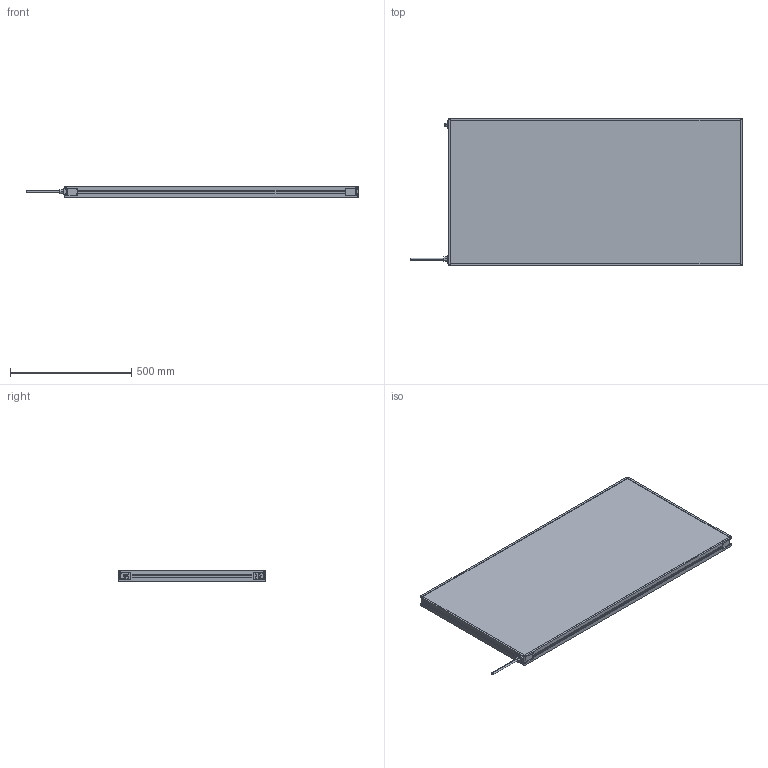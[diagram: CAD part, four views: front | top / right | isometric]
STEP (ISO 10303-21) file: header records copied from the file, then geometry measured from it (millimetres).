
FILE_DESCRIPTION (( 'STEP AP214' ), '1' );
FILE_NAME ('MBACK-xxxx-xxx-M1A2_CLIENT600x1200.STEP', '2022-04-01T11:45:36', ( '' ), ( '' ), 'SwSTEP 2.0', 'SolidWorks 2020', '' );
FILE_SCHEMA (( 'AUTOMOTIVE_DESIGN' ));
Length unit declared in the file: millimetre
Products named in the file (1): MBACK-xxxx-xxx-M1A2_CLIENT600x1200
Bounding box: 1367.4 x 608 x 45.5 mm (x, y, z)
Volume: 30605921.1 mm3; surface area: 1716125.4 mm2
Topology: 1 solids, 1 shells, 470 faces, 1210 edges, 804 vertices
Faces by surface type: plane 265, cylinder 117, bspline 80, cone 8
Entity records: 18046 total; most frequent: CARTESIAN_POINT 6837, ORIENTED_EDGE 2420, DIRECTION 2082, EDGE_CURVE 1210, VERTEX_POINT 804, VECTOR 800, LINE 800, AXIS2_PLACEMENT_3D 641
